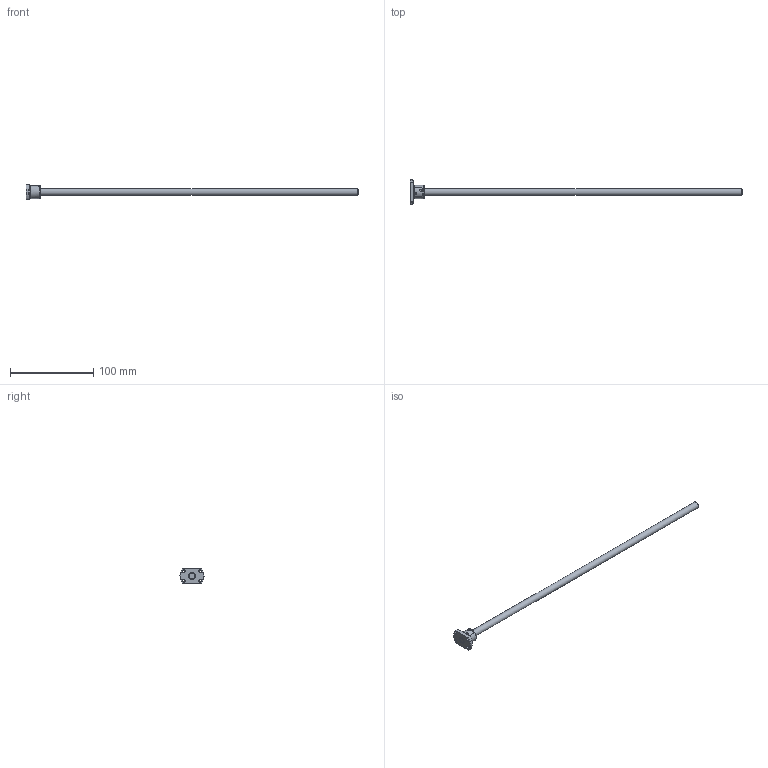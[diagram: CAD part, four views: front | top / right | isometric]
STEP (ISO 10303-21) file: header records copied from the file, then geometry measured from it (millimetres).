
FILE_DESCRIPTION( ( 'STEP AP203' ), '1' );
FILE_NAME( 'e:/temp/worker_65/temp/exporttempdir_236_1790_l65FC/format_0/SSR0801 (0).stp', '2021-10-19T07:22:12', ( 'License CC BY-ND 4.0' ), ( 'CADENAS' ), ' ', 'PARTsolutions', ' ' );
FILE_SCHEMA( ( 'CONFIG_CONTROL_DESIGN' ) );
Length unit declared in the file: millimetre
Products named in the file (3): SSR0801 (0); _SSR0801 Shaft; _SSR0801 Nut
Assembly tree (2 placements, depth 2):
  SSR0801 (0)
    _SSR0801 Shaft
    _SSR0801 Nut
Bounding box: 400 x 29 x 18 mm (x, y, z)
Volume: 23573.1 mm3; surface area: 12530.7 mm2
Topology: 2 solids, 2 shells, 47 faces, 111 edges, 73 vertices
Faces by surface type: plane 22, cylinder 18, cone 7
Full cylindrical faces by diameter (mm): 2.5 x1, 3.4 x4, 8 x2, 15.5 x1, 16 x1
Entity records: 1486 total; most frequent: CARTESIAN_POINT 317, DIRECTION 230, ORIENTED_EDGE 192, EDGE_CURVE 96, AXIS2_PLACEMENT_3D 95, EDGE_LOOP 74, VERTEX_POINT 70, FACE_OUTER_BOUND 56
